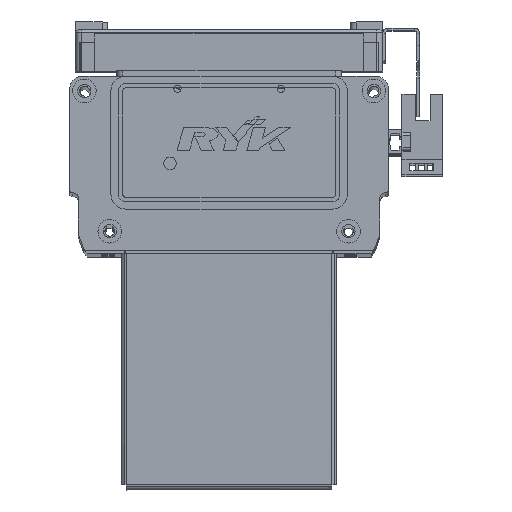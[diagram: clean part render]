
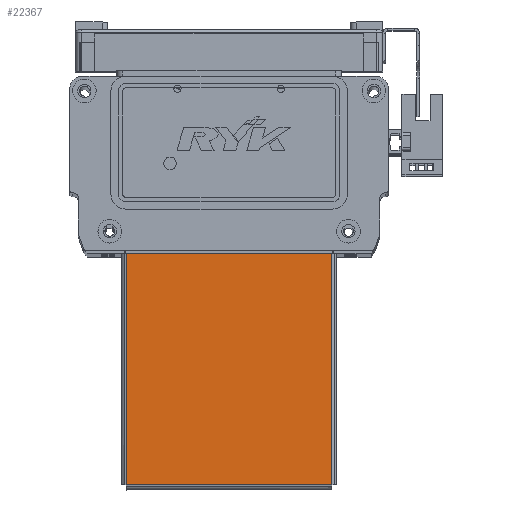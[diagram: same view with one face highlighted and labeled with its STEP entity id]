
A CAD part, top view. The second image highlights one B-rep face of the part: STEP entity #22367.
In plain terms, the highlighted planar face has unit normal (0, 0, 1) as drawn and (0, 1, 0) by its records, which use the part's own axes.
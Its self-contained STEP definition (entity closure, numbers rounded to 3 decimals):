
#2470 = PLANE ( 'NONE',  #30246 ) ;
#2472 = CARTESIAN_POINT ( 'NONE',  ( 0., 0., 0. ) ) ;
#2555 = DIRECTION ( 'NONE',  ( 0., 0., 1. ) ) ;
#2559 = DIRECTION ( 'NONE',  ( 0., 1., 0. ) ) ;
#10440 = FACE_OUTER_BOUND ( 'NONE', #48097, .T. ) ;
#22367 = ADVANCED_FACE ( 'NONE', ( #10440 ), #2470, .T. ) ;
#26907 = EDGE_CURVE ( 'NONE', #46974, #46836, #56398, .T. ) ;
#26908 = EDGE_CURVE ( 'NONE', #46870, #46896, #56418, .T. ) ;
#26909 = EDGE_CURVE ( 'NONE', #46836, #46870, #56384, .T. ) ;
#26927 = EDGE_CURVE ( 'NONE', #46896, #46974, #56432, .T. ) ;
#29705 = CARTESIAN_POINT ( 'NONE',  ( -34.763, 0., 38.763 ) ) ;
#29726 = CARTESIAN_POINT ( 'NONE',  ( 34.763, 0., 38.763 ) ) ;
#29728 = CARTESIAN_POINT ( 'NONE',  ( 34.763, 0., -39.5 ) ) ;
#29820 = CARTESIAN_POINT ( 'NONE',  ( -34.763, 0., -39.5 ) ) ;
#30246 = AXIS2_PLACEMENT_3D ( 'NONE', #2472, #2559, #2555 ) ;
#46836 = VERTEX_POINT ( 'NONE', #29705 ) ;
#46870 = VERTEX_POINT ( 'NONE', #29726 ) ;
#46896 = VERTEX_POINT ( 'NONE', #29728 ) ;
#46974 = VERTEX_POINT ( 'NONE', #29820 ) ;
#48097 = EDGE_LOOP ( 'NONE', ( #59515, #59459, #59431, #59446 ) ) ;
#54442 = CARTESIAN_POINT ( 'NONE',  ( -34.763, 0., -39.5 ) ) ;
#54453 = DIRECTION ( 'NONE',  ( 0., 0., 1. ) ) ;
#54457 = CARTESIAN_POINT ( 'NONE',  ( -34.793, 0., 38.763 ) ) ;
#54460 = DIRECTION ( 'NONE',  ( 0., 0., -1. ) ) ;
#54464 = CARTESIAN_POINT ( 'NONE',  ( 34.763, 0., 38.793 ) ) ;
#54471 = DIRECTION ( 'NONE',  ( 1., 0., 0. ) ) ;
#54488 = CARTESIAN_POINT ( 'NONE',  ( -35.5, 0., -39.5 ) ) ;
#54495 = DIRECTION ( 'NONE',  ( -1., 0., 0. ) ) ;
#56384 = LINE ( 'NONE', #54457, #56409 ) ;
#56398 = LINE ( 'NONE', #54442, #56402 ) ;
#56402 = VECTOR ( 'NONE', #54453, 1000. ) ;
#56409 = VECTOR ( 'NONE', #54471, 1000. ) ;
#56410 = VECTOR ( 'NONE', #54495, 1000. ) ;
#56418 = LINE ( 'NONE', #54464, #56443 ) ;
#56432 = LINE ( 'NONE', #54488, #56410 ) ;
#56443 = VECTOR ( 'NONE', #54460, 1000. ) ;
#59431 = ORIENTED_EDGE ( 'NONE', *, *, #26908, .T. ) ;
#59446 = ORIENTED_EDGE ( 'NONE', *, *, #26927, .T. ) ;
#59459 = ORIENTED_EDGE ( 'NONE', *, *, #26909, .T. ) ;
#59515 = ORIENTED_EDGE ( 'NONE', *, *, #26907, .T. ) ;
